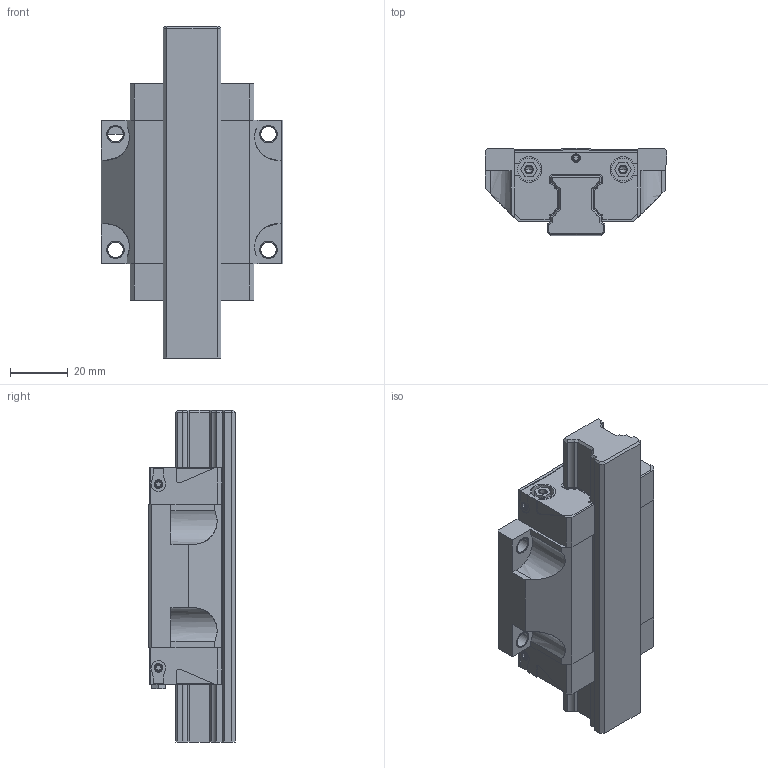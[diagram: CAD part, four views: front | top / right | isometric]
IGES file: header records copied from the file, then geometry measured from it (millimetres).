
Start section: 3D InterOp IGES (v. 2019 1.0.2), Spatial Corp. Copyright (c) 1999-2017.
Global section: file name: R1651_size20.igs; native system: Spatial Corp.; preprocessor: 3D InterOp GENERIC/IGES 3.0; author: Noname; organization: Noname; date: 20220629.124944; units: millimetre
Bounding box: 63 x 30 x 115 mm (x, y, z)
Surface area: 36609.4 mm2 (no closed solid volume)
Topology: 0 solids, 0 shells, 553 faces, 2962 edges, 2940 vertices
Faces by surface type: extrusion 317, revolution 236
